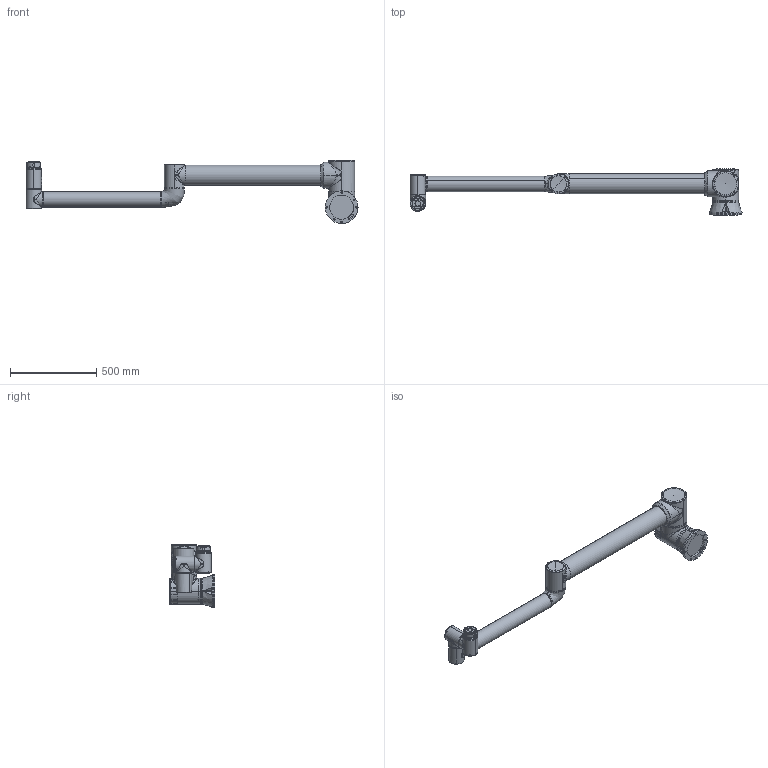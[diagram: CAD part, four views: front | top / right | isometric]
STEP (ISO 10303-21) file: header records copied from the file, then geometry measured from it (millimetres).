
FILE_DESCRIPTION (( 'STEP AP203' ), '1' );
FILE_NAME ('RD37-FR5L-V6.0软件外发模型.STEP', '2025-07-16T12:27:38', ( '' ), ( '' ), 'SwSTEP 2.0', 'SolidWorks 2018', '' );
FILE_SCHEMA (( 'CONFIG_CONTROL_DESIGN' ));
Length unit declared in the file: millimetre
Products named in the file (7): RD20-FR16-V6.0-2; RD37-FR5L-V6.0软件外发模型; RD20-FR16-V6.0-7; RD20-FR16-V6.0-3; RD20-FR16-V6.0-4; RD20-FR16-V6.0-1; RD20-FR16-V6.0-5
Assembly tree (7 placements, depth 2):
  RD37-FR5L-V6.0软件外发模型
    RD20-FR16-V6.0-1
    RD20-FR16-V6.0-2
    RD20-FR16-V6.0-3
    RD20-FR16-V6.0-4
    RD20-FR16-V6.0-5  x2
    RD20-FR16-V6.0-7
Bounding box: 1925.96 x 266.69 x 366.69 mm (x, y, z)
Volume: 26819063.4 mm3; surface area: 1350351.1 mm2
Topology: 17 solids, 50 shells, 1777 faces, 4114 edges, 2532 vertices
Faces by surface type: plane 770, cylinder 542, bspline 186, cone 138, sphere 84, torus 57
Entity records: 100718 total; most frequent: CARTESIAN_POINT 64388, ORIENTED_EDGE 7456, DIRECTION 7234, EDGE_CURVE 3728, AXIS2_PLACEMENT_3D 2794, VERTEX_POINT 2320, EDGE_LOOP 1808, VECTOR 1646
